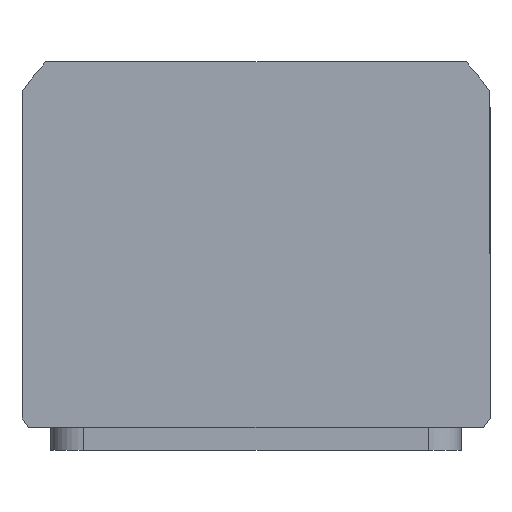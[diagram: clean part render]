
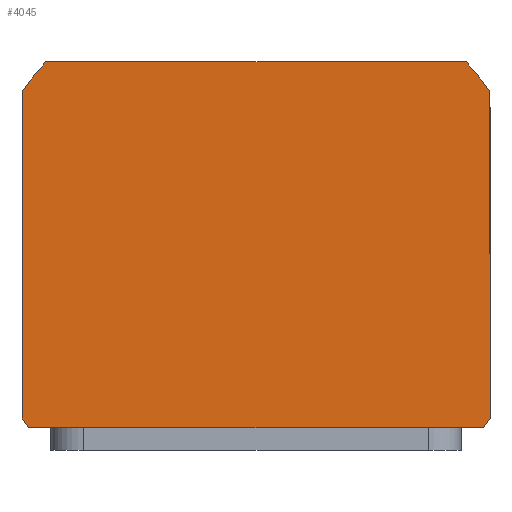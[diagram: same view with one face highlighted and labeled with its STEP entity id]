
A CAD part, top view. The second image highlights one B-rep face of the part: STEP entity #4045.
In plain terms, the highlighted planar face has unit normal (0, 0, 1) as drawn and (0, 0, -1) by its records, which use the part's own axes.
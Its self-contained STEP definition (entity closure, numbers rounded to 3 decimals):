
#245 = AXIS2_PLACEMENT_3D ( 'NONE', #14722, #6288, #16159 ) ;
#382 = VERTEX_POINT ( 'NONE', #2330 ) ;
#446 = LINE ( 'NONE', #8285, #3742 ) ;
#684 = VECTOR ( 'NONE', #1461, 1000. ) ;
#827 = CARTESIAN_POINT ( 'NONE',  ( 0., 2.508, 0. ) ) ;
#1193 = ORIENTED_EDGE ( 'NONE', *, *, #10178, .F. ) ;
#1461 = DIRECTION ( 'NONE',  ( 0., 1., 0. ) ) ;
#1546 = CIRCLE ( 'NONE', #245, 69.5 ) ;
#2254 = DIRECTION ( 'NONE',  ( 1., 0., 0. ) ) ;
#2330 = CARTESIAN_POINT ( 'NONE',  ( 51.19, -44.5, 0. ) ) ;
#2384 = VERTEX_POINT ( 'NONE', #2963 ) ;
#2889 = CIRCLE ( 'NONE', #8796, 69.5 ) ;
#2963 = CARTESIAN_POINT ( 'NONE',  ( -57., 42.273, 0. ) ) ;
#3742 = VECTOR ( 'NONE', #6863, 1000. ) ;
#3808 = DIRECTION ( 'NONE',  ( 0., 0., 1. ) ) ;
#3909 = DIRECTION ( 'NONE',  ( 0., 0., 1. ) ) ;
#4045 = ADVANCED_FACE ( 'NONE', ( #9950 ), #13072, .F. ) ;
#4168 = CARTESIAN_POINT ( 'NONE',  ( -57., -44.5, 0. ) ) ;
#4297 = ORIENTED_EDGE ( 'NONE', *, *, #13885, .F. ) ;
#4493 = CARTESIAN_POINT ( 'NONE',  ( 57., -37.256, 0. ) ) ;
#4621 = CARTESIAN_POINT ( 'NONE',  ( 0., 0., 0. ) ) ;
#4766 = EDGE_CURVE ( 'NONE', #382, #8740, #10609, .T. ) ;
#5039 = VERTEX_POINT ( 'NONE', #7188 ) ;
#5505 = ORIENTED_EDGE ( 'NONE', *, *, #11858, .F. ) ;
#5931 = ORIENTED_EDGE ( 'NONE', *, *, #13267, .F. ) ;
#6028 = DIRECTION ( 'NONE',  ( 0., 0., 1. ) ) ;
#6288 = DIRECTION ( 'NONE',  ( 0., 0., 1. ) ) ;
#6653 = LINE ( 'NONE', #6820, #17487 ) ;
#6820 = CARTESIAN_POINT ( 'NONE',  ( -57., 44.5, 0. ) ) ;
#6863 = DIRECTION ( 'NONE',  ( 0., -1., 0. ) ) ;
#6968 = EDGE_CURVE ( 'NONE', #11432, #382, #17055, .T. ) ;
#7070 = EDGE_CURVE ( 'NONE', #8740, #8489, #8202, .T. ) ;
#7188 = CARTESIAN_POINT ( 'NONE',  ( -57., -37.256, 0. ) ) ;
#7295 = VERTEX_POINT ( 'NONE', #14481 ) ;
#7477 = AXIS2_PLACEMENT_3D ( 'NONE', #827, #10729, #2254 ) ;
#8202 = LINE ( 'NONE', #18298, #684 ) ;
#8285 = CARTESIAN_POINT ( 'NONE',  ( -57., 44.5, 0. ) ) ;
#8307 = EDGE_CURVE ( 'NONE', #7295, #2384, #2889, .T. ) ;
#8489 = VERTEX_POINT ( 'NONE', #16813 ) ;
#8740 = VERTEX_POINT ( 'NONE', #4493 ) ;
#8796 = AXIS2_PLACEMENT_3D ( 'NONE', #12369, #3909, #13782 ) ;
#9950 = FACE_OUTER_BOUND ( 'NONE', #13993, .T. ) ;
#10150 = ORIENTED_EDGE ( 'NONE', *, *, #4766, .F. ) ;
#10178 = EDGE_CURVE ( 'NONE', #17107, #7295, #6653, .T. ) ;
#10609 = CIRCLE ( 'NONE', #7477, 69.5 ) ;
#10662 = AXIS2_PLACEMENT_3D ( 'NONE', #4621, #6028, #15902 ) ;
#10729 = DIRECTION ( 'NONE',  ( 0., 0., 1. ) ) ;
#11432 = VERTEX_POINT ( 'NONE', #13650 ) ;
#11721 = AXIS2_PLACEMENT_3D ( 'NONE', #12265, #3808, #13668 ) ;
#11858 = EDGE_CURVE ( 'NONE', #5039, #11432, #13699, .T. ) ;
#12265 = CARTESIAN_POINT ( 'NONE',  ( 0., 2.508, 0. ) ) ;
#12369 = CARTESIAN_POINT ( 'NONE',  ( 0., 2.508, 0. ) ) ;
#12409 = VECTOR ( 'NONE', #16838, 1000. ) ;
#12555 = CARTESIAN_POINT ( 'NONE',  ( 55.38, 44.5, 0. ) ) ;
#12981 = ORIENTED_EDGE ( 'NONE', *, *, #6968, .F. ) ;
#13072 = PLANE ( 'NONE',  #10662 ) ;
#13267 = EDGE_CURVE ( 'NONE', #2384, #5039, #446, .T. ) ;
#13650 = CARTESIAN_POINT ( 'NONE',  ( -51.19, -44.5, 0. ) ) ;
#13668 = DIRECTION ( 'NONE',  ( 1., 0., 0. ) ) ;
#13699 = CIRCLE ( 'NONE', #11721, 69.5 ) ;
#13782 = DIRECTION ( 'NONE',  ( 1., 0., 0. ) ) ;
#13885 = EDGE_CURVE ( 'NONE', #8489, #17107, #1546, .T. ) ;
#13993 = EDGE_LOOP ( 'NONE', ( #4297, #15649, #10150, #12981, #5505, #5931, #15463, #1193 ) ) ;
#14481 = CARTESIAN_POINT ( 'NONE',  ( -55.38, 44.5, 0. ) ) ;
#14722 = CARTESIAN_POINT ( 'NONE',  ( 0., 2.508, 0. ) ) ;
#15274 = DIRECTION ( 'NONE',  ( -1., 0., 0. ) ) ;
#15463 = ORIENTED_EDGE ( 'NONE', *, *, #8307, .F. ) ;
#15649 = ORIENTED_EDGE ( 'NONE', *, *, #7070, .F. ) ;
#15902 = DIRECTION ( 'NONE',  ( 1., 0., 0. ) ) ;
#16159 = DIRECTION ( 'NONE',  ( 1., 0., 0. ) ) ;
#16813 = CARTESIAN_POINT ( 'NONE',  ( 57., 42.273, 0. ) ) ;
#16838 = DIRECTION ( 'NONE',  ( 1., 0., 0. ) ) ;
#17055 = LINE ( 'NONE', #4168, #12409 ) ;
#17107 = VERTEX_POINT ( 'NONE', #12555 ) ;
#17487 = VECTOR ( 'NONE', #15274, 1000. ) ;
#18298 = CARTESIAN_POINT ( 'NONE',  ( 57., 44.5, 0. ) ) ;
